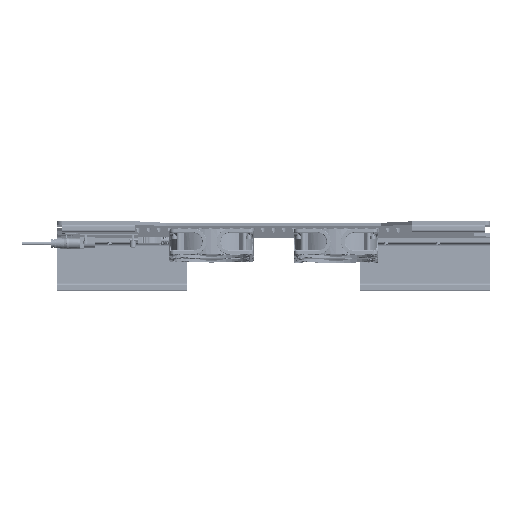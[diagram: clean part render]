
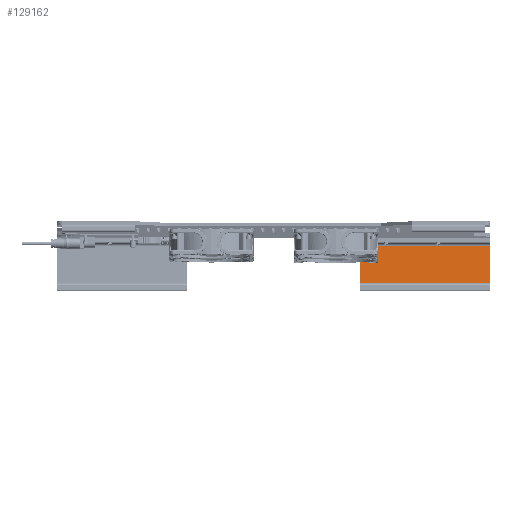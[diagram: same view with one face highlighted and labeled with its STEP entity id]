
A CAD part, top view. The second image highlights one B-rep face of the part: STEP entity #129162.
In plain terms, the highlighted planar face has unit normal (0, 0.047, 0.999) as drawn and (0, 1, 0) by its records, which use the part's own axes.
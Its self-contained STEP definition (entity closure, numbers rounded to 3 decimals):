
#128953=CARTESIAN_POINT('Vertex',(-17.825,4.,0.)) ;
#128956=CARTESIAN_POINT('Line Origine',(0.,4.,0.)) ;
#128960=CARTESIAN_POINT('Vertex',(17.825,4.,0.)) ;
#129004=CARTESIAN_POINT('Vertex',(-17.825,4.,125.)) ;
#129007=CARTESIAN_POINT('Line Origine',(-17.825,4.,62.5)) ;
#129139=CARTESIAN_POINT('Axis2P3D Location',(21.,4.,0.)) ;
#129144=CARTESIAN_POINT('Line Origine',(0.,4.,125.)) ;
#129148=CARTESIAN_POINT('Vertex',(17.825,4.,125.)) ;
#129151=CARTESIAN_POINT('Line Origine',(17.825,4.,62.5)) ;
#128957=DIRECTION('Vector Direction',(-1.,0.,0.)) ;
#129008=DIRECTION('Vector Direction',(0.,0.,1.)) ;
#129140=DIRECTION('Axis2P3D Direction',(0.,1.,-0.)) ;
#129141=DIRECTION('Axis2P3D XDirection',(-1.,0.,0.)) ;
#129145=DIRECTION('Vector Direction',(-1.,0.,0.)) ;
#129152=DIRECTION('Vector Direction',(0.,0.,1.)) ;
#129142=AXIS2_PLACEMENT_3D('Plane Axis2P3D',#129139,#129140,#129141) ;
#129157=ORIENTED_EDGE('',*,*,#129150,.F.) ;
#129158=ORIENTED_EDGE('',*,*,#129155,.T.) ;
#129159=ORIENTED_EDGE('',*,*,#128962,.T.) ;
#129160=ORIENTED_EDGE('',*,*,#129011,.F.) ;
#128958=VECTOR('Line Direction',#128957,1.) ;
#129009=VECTOR('Line Direction',#129008,1.) ;
#129146=VECTOR('Line Direction',#129145,1.) ;
#129153=VECTOR('Line Direction',#129152,1.) ;
#129162=ADVANCED_FACE('PartBody',(#129161),#129143,.T.) ;
#128962=EDGE_CURVE('',#128961,#128954,#128959,.T.) ;
#129011=EDGE_CURVE('',#129005,#128954,#129010,.F.) ;
#129150=EDGE_CURVE('',#129149,#129005,#129147,.T.) ;
#129155=EDGE_CURVE('',#129149,#128961,#129154,.F.) ;
#129156=EDGE_LOOP('',(#129157,#129158,#129159,#129160)) ;
#129161=FACE_OUTER_BOUND('',#129156,.T.) ;
#128959=LINE('Line',#128956,#128958) ;
#129010=LINE('Line',#129007,#129009) ;
#129147=LINE('Line',#129144,#129146) ;
#129154=LINE('Line',#129151,#129153) ;
#129143=PLANE('Plane',#129142) ;
#128954=VERTEX_POINT('',#128953) ;
#128961=VERTEX_POINT('',#128960) ;
#129005=VERTEX_POINT('',#129004) ;
#129149=VERTEX_POINT('',#129148) ;
